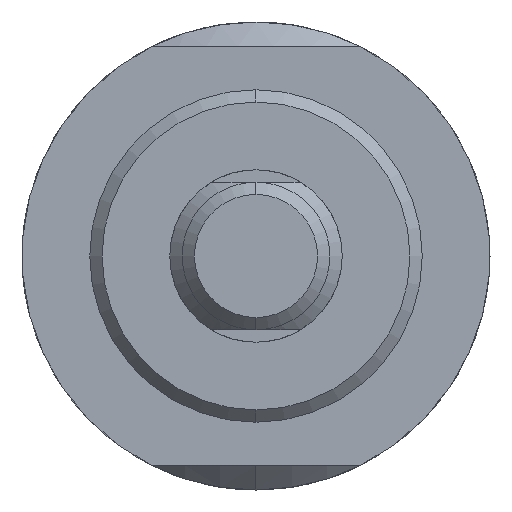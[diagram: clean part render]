
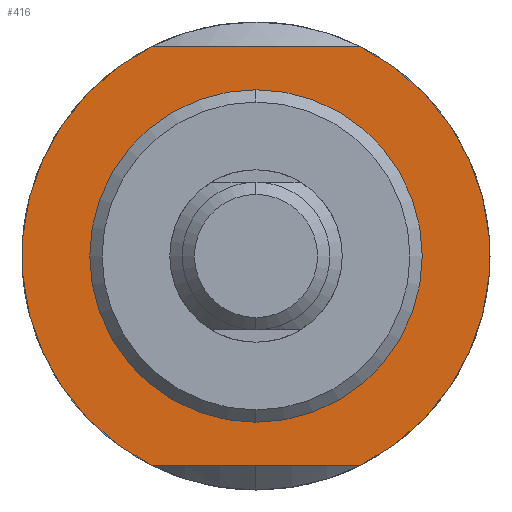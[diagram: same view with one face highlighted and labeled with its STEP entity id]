
A CAD part, left-side view. The second image highlights one B-rep face of the part: STEP entity #416.
In plain terms, the highlighted planar face has unit normal (-1, 0, 0).
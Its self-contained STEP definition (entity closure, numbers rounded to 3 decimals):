
#16 = VECTOR ( 'NONE', #325, 1000. ) ;
#28 = VERTEX_POINT ( 'NONE', #590 ) ;
#57 = VERTEX_POINT ( 'NONE', #202 ) ;
#151 = EDGE_CURVE ( 'NONE', #57, #1067, #1108, .T. ) ;
#202 = CARTESIAN_POINT ( 'NONE',  ( 48., -8.485, -17. ) ) ;
#216 = VECTOR ( 'NONE', #1869, 1000. ) ;
#295 = DIRECTION ( 'NONE',  ( 1., 0., 0. ) ) ;
#325 = DIRECTION ( 'NONE',  ( 0., -1., 0. ) ) ;
#343 = CARTESIAN_POINT ( 'NONE',  ( 48., 15., -17. ) ) ;
#364 = CARTESIAN_POINT ( 'NONE',  ( 48., 0., 0. ) ) ;
#383 = VERTEX_POINT ( 'NONE', #747 ) ;
#416 = ADVANCED_FACE ( 'NONE', ( #1412, #777 ), #1762, .F. ) ;
#424 = CARTESIAN_POINT ( 'NONE',  ( 48., 15., 17. ) ) ;
#442 = ORIENTED_EDGE ( 'NONE', *, *, #1112, .F. ) ;
#465 = EDGE_LOOP ( 'NONE', ( #442, #1378 ) ) ;
#543 = VERTEX_POINT ( 'NONE', #1570 ) ;
#583 = CARTESIAN_POINT ( 'NONE',  ( 48., 0., 0. ) ) ;
#590 = CARTESIAN_POINT ( 'NONE',  ( 48., 8.485, 17. ) ) ;
#745 = DIRECTION ( 'NONE',  ( -1., 0., 0. ) ) ;
#747 = CARTESIAN_POINT ( 'NONE',  ( 48., 0., -13.5 ) ) ;
#777 = FACE_OUTER_BOUND ( 'NONE', #1558, .T. ) ;
#815 = CARTESIAN_POINT ( 'NONE',  ( 48., 0., 0. ) ) ;
#844 = DIRECTION ( 'NONE',  ( 0., 0., -1. ) ) ;
#861 = ORIENTED_EDGE ( 'NONE', *, *, #1175, .F. ) ;
#869 = ORIENTED_EDGE ( 'NONE', *, *, #151, .F. ) ;
#904 = EDGE_CURVE ( 'NONE', #28, #1067, #1433, .T. ) ;
#919 = DIRECTION ( 'NONE',  ( -1., 0., 0. ) ) ;
#1023 = CIRCLE ( 'NONE', #1553, 13.5 ) ;
#1067 = VERTEX_POINT ( 'NONE', #1518 ) ;
#1083 = DIRECTION ( 'NONE',  ( 0., 0., 1. ) ) ;
#1108 = LINE ( 'NONE', #343, #216 ) ;
#1112 = EDGE_CURVE ( 'NONE', #543, #383, #1023, .T. ) ;
#1175 = EDGE_CURVE ( 'NONE', #28, #1873, #1317, .T. ) ;
#1187 = DIRECTION ( 'NONE',  ( 0., 0., 1. ) ) ;
#1225 = EDGE_CURVE ( 'NONE', #383, #543, #1537, .T. ) ;
#1228 = AXIS2_PLACEMENT_3D ( 'NONE', #815, #1354, #1598 ) ;
#1233 = CARTESIAN_POINT ( 'NONE',  ( 48., 0., -19. ) ) ;
#1293 = ORIENTED_EDGE ( 'NONE', *, *, #1924, .T. ) ;
#1317 = LINE ( 'NONE', #424, #16 ) ;
#1341 = CARTESIAN_POINT ( 'NONE',  ( 48., 0., 0. ) ) ;
#1354 = DIRECTION ( 'NONE',  ( -1., 0., 0. ) ) ;
#1378 = ORIENTED_EDGE ( 'NONE', *, *, #1225, .F. ) ;
#1381 = DIRECTION ( 'NONE',  ( -1., 0., 0. ) ) ;
#1412 = FACE_BOUND ( 'NONE', #465, .T. ) ;
#1433 = CIRCLE ( 'NONE', #1693, 19. ) ;
#1450 = CIRCLE ( 'NONE', #1697, 19. ) ;
#1518 = CARTESIAN_POINT ( 'NONE',  ( 48., 8.485, -17. ) ) ;
#1537 = CIRCLE ( 'NONE', #1228, 13.5 ) ;
#1548 = CARTESIAN_POINT ( 'NONE',  ( 48., -8.485, 17. ) ) ;
#1553 = AXIS2_PLACEMENT_3D ( 'NONE', #583, #745, #1187 ) ;
#1558 = EDGE_LOOP ( 'NONE', ( #1785, #869, #1293, #861 ) ) ;
#1570 = CARTESIAN_POINT ( 'NONE',  ( 48., 0., 13.5 ) ) ;
#1598 = DIRECTION ( 'NONE',  ( 0., 0., 1. ) ) ;
#1693 = AXIS2_PLACEMENT_3D ( 'NONE', #1341, #1381, #1083 ) ;
#1697 = AXIS2_PLACEMENT_3D ( 'NONE', #364, #919, #1848 ) ;
#1762 = PLANE ( 'NONE',  #1940 ) ;
#1785 = ORIENTED_EDGE ( 'NONE', *, *, #904, .T. ) ;
#1848 = DIRECTION ( 'NONE',  ( 0., 0., 1. ) ) ;
#1869 = DIRECTION ( 'NONE',  ( 0., 1., 0. ) ) ;
#1873 = VERTEX_POINT ( 'NONE', #1548 ) ;
#1924 = EDGE_CURVE ( 'NONE', #57, #1873, #1450, .T. ) ;
#1940 = AXIS2_PLACEMENT_3D ( 'NONE', #1233, #295, #844 ) ;
